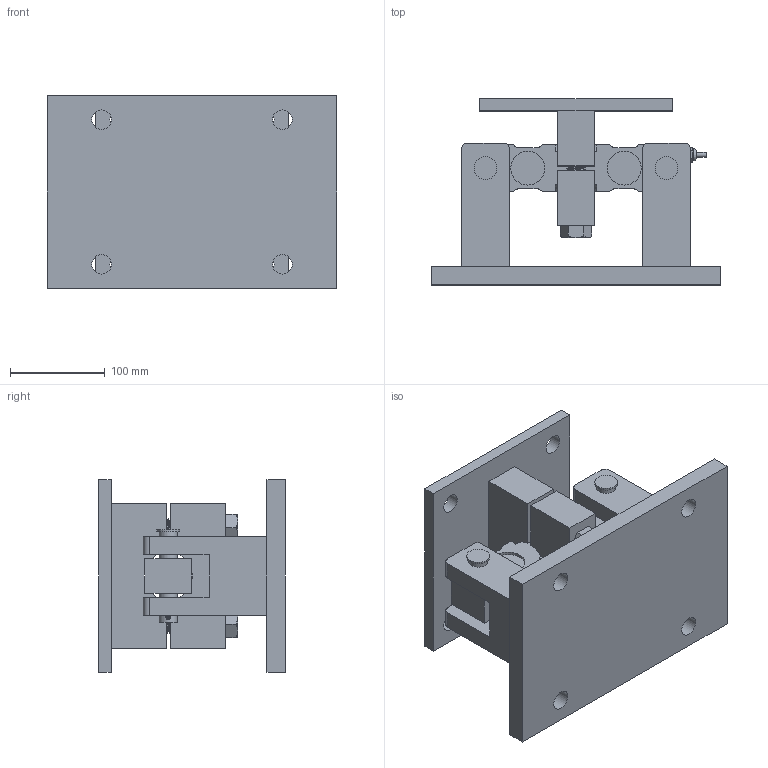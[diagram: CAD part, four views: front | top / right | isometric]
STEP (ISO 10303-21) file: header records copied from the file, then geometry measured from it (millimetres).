
FILE_DESCRIPTION(/* description */ (''),/* implementation_level */ '2;1');
FILE_NAME(/* name */ 'C:/Users/fardi/Dropbox/Work/Anyload/Load Cell Models/Product Catalog 3D/Weight Modules/102/102ESM2/102ESM2-(10-25)klb v4.step',/* time_stamp */ '2020-04-30T09:50:25-07:00',/* author */ (''),/* organization */ (''),/* preprocessor_version */ 'ST-DEVELOPER v18.1',/* originating_system */ 'Autodesk Translation Framework v9.2.0.1227',/* authorisation */ '');
FILE_SCHEMA (('AUTOMOTIVE_DESIGN { 1 0 10303 214 3 1 1 }'));
Length unit declared in the file: millimetre
Products named in the file (7): 102ESM2-(10-25)klb; Base; 102ES-(10-25)klb; Connector; Pins; Top; 91257A850
Assembly tree (7 placements, depth 3):
  102ESM2-(10-25)klb
    Base
    102ES-(10-25)klb
      Connector
    Pins
    Top
    91257A850  x2
Bounding box: 304.8 x 195.95 x 203.2 mm (x, y, z)
Volume: 3426379.2 mm3; surface area: 463284.5 mm2
Topology: 9 solids, 9 shells, 435 faces, 1135 edges, 746 vertices
Faces by surface type: cylinder 257, plane 150, cone 19, bspline 9
Full cylindrical faces by diameter (mm): 4.8 x2, 5.1 x1, 5.3 x1, 12 x2, 13 x1, 15.75 x32, 16.573 x52, 19 x2, 19.05 x82, 20.066 x2, 20.3 x4, 20.6 x10, 24 x2, 35.6 x4
Entity records: 24571 total; most frequent: CARTESIAN_POINT 16243, ORIENTED_EDGE 1816, DIRECTION 1481, EDGE_CURVE 908, VERTEX_POINT 597, AXIS2_PLACEMENT_3D 513, LINE 455, VECTOR 455
